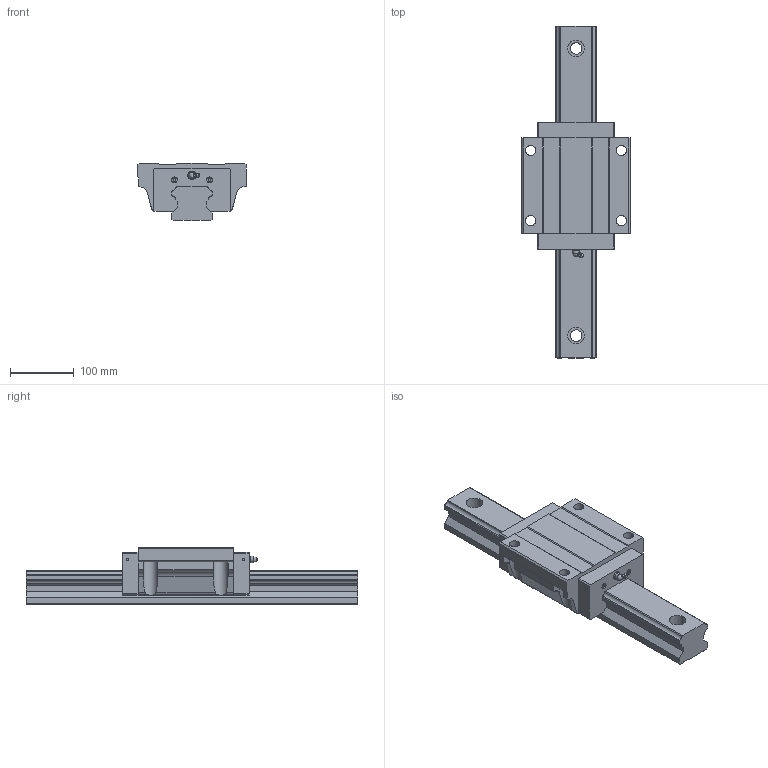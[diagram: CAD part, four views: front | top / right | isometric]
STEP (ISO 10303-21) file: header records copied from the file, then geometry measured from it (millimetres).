
FILE_DESCRIPTION(/* description */ (''),/* implementation_level */ '2;1');
FILE_NAME(/* name */ 'MSA65E',/* time_stamp */ '2005-12-26T16:31:37+08:00',/* author */ (''),/* organization */ (''),/* preprocessor_version */ 'ST-DEVELOPER v9',/* originating_system */ 'UGS - NX 3.0',/* authorisation */ '');
FILE_SCHEMA (('CONFIG_CONTROL_DESIGN'));
Length unit declared in the file: millimetre
Products named in the file (1): kevi37F33h4g
Bounding box: 170 x 520 x 90 mm (x, y, z)
Volume: 3056925.1 mm3; surface area: 276527.8 mm2
Topology: 3 solids, 3 shells, 259 faces, 684 edges, 448 vertices
Faces by surface type: plane 163, cylinder 85, torus 7, sphere 2, cone 1, bspline 1
Full cylindrical faces by diameter (mm): 3.3 x4, 4.5 x4, 9 x4, 10 x1, 13 x2, 16 x4, 18 x4, 26 x4
Entity records: 8057 total; most frequent: CARTESIAN_POINT 1600, DIRECTION 1326, ORIENTED_EDGE 1284, EDGE_CURVE 642, AXIS2_PLACEMENT_3D 460, VERTEX_POINT 438, LINE 406, VECTOR 406
